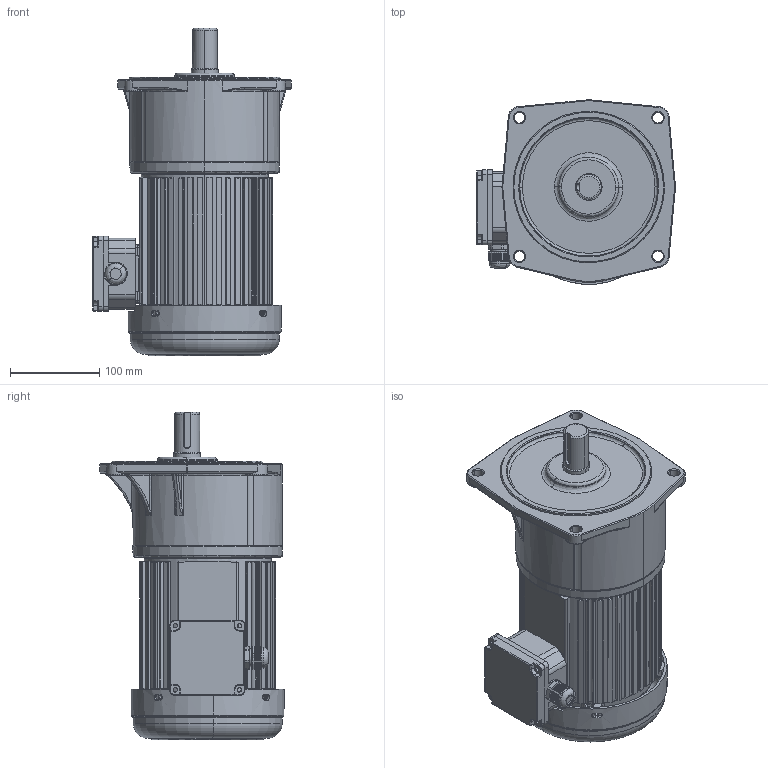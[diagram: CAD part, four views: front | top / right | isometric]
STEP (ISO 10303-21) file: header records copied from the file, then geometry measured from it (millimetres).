
FILE_DESCRIPTION (( 'STEP AP203' ), '1' );
FILE_NAME ('750W配3#立式.STEP', '2019-06-14T08:08:29', ( '微软中国' ), ( '微软用户' ), 'SwSTEP 2.0', 'SolidWorks 2012', '' );
FILE_SCHEMA (( 'CONFIG_CONTROL_DESIGN' ));
Products named in the file (10): 750W饜3#蕾宒; 3#蕾宒熬厒ん; 3xg750w; 750W瑞欶; 釱菜; 750W 綴傷裔2_2; 坶踡ん 蚾饜; 蜊輛綴諉盄碟裔; 呿蹋諉盄碟; 儂褲 750W
Assembly tree (9 placements, depth 2):
  750W饜3#蕾宒
    儂褲 750W
    呿蹋諉盄碟
    蜊輛綴諉盄碟裔
    坶踡ん 蚾饜
    750W 綴傷裔2_2
    釱菜
    750W瑞欶
    3xg750w
    3#蕾宒熬厒ん
Bounding box: 223.48 x 206.75 x 367.63 mm (x, y, z)
Volume: 3191403.6 mm3; surface area: 671197.3 mm2
Topology: 8 solids, 10 shells, 2924 faces, 7605 edges, 4806 vertices
Faces by surface type: cylinder 1209, plane 786, bspline 601, torus 187, cone 133, sphere 8
Entity records: 126220 total; most frequent: CARTESIAN_POINT 57154, ORIENTED_EDGE 15166, DIRECTION 12983, EDGE_CURVE 7585, AXIS2_PLACEMENT_3D 5002, VERTEX_POINT 4812, EDGE_LOOP 3437, VECTOR 2979
